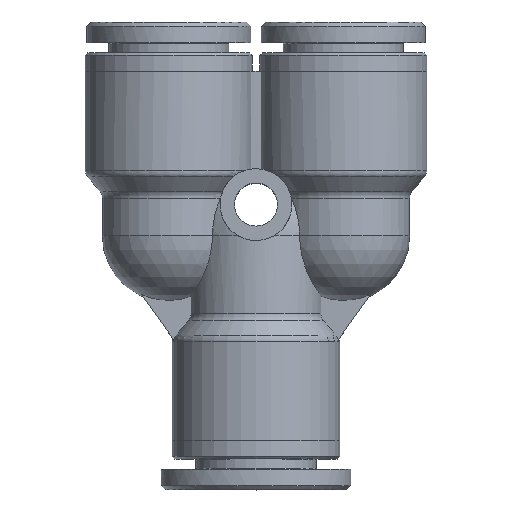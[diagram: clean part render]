
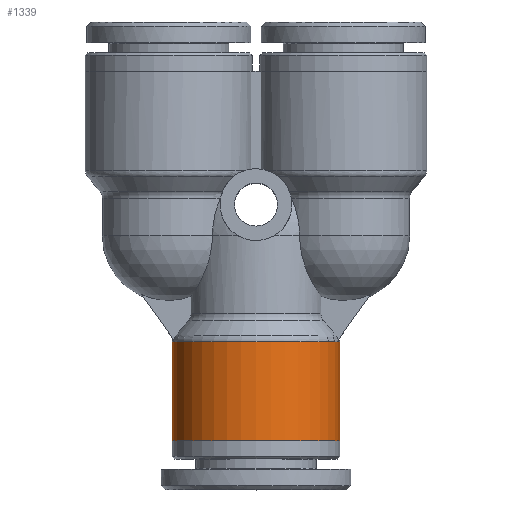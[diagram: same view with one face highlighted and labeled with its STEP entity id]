
A CAD part, top view. The second image highlights one B-rep face of the part: STEP entity #1339.
In plain terms, the highlighted cylindrical face has radius 8.15 mm (diameter 16.3 mm), a full revolution.
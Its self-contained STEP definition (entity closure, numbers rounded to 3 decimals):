
#1285=CARTESIAN_POINT('',(0.35,-20.0,0.0));
#1286=VERTEX_POINT('',#1285);
#1287=CARTESIAN_POINT('',(8.5,-20.,0.0));
#1288=DIRECTION('',(0.0,1.0,0.0));
#1289=DIRECTION('',(-1.0,0.0,0.0));
#1290=AXIS2_PLACEMENT_3D('',#1287,#1288,#1289);
#1291=CIRCLE('',#1290,8.15);
#1292=EDGE_CURVE('',#1286,#1286,#1291,.T.);
#1320=CARTESIAN_POINT('',(8.5,-15.0,0.0));
#1321=DIRECTION('',(0.,1.0,0.0));
#1322=DIRECTION('',(-1.0,0.0,0.0));
#1323=AXIS2_PLACEMENT_3D('',#1320,#1321,#1322);
#1324=CYLINDRICAL_SURFACE('',#1323,8.15);
#1325=CARTESIAN_POINT('',(0.35,-10.359,0.));
#1326=VERTEX_POINT('',#1325);
#1327=CARTESIAN_POINT('',(8.5,-10.359,0.0));
#1328=DIRECTION('',(0.0,1.0,0.0));
#1329=DIRECTION('',(1.0,0.0,0.0));
#1330=AXIS2_PLACEMENT_3D('',#1327,#1328,#1329);
#1331=CIRCLE('',#1330,8.15);
#1332=EDGE_CURVE('',#1326,#1326,#1331,.T.);
#1333=ORIENTED_EDGE('',*,*,#1332,.F.);
#1334=EDGE_LOOP('',(#1333));
#1335=FACE_OUTER_BOUND('',#1334,.T.);
#1336=ORIENTED_EDGE('',*,*,#1292,.T.);
#1337=EDGE_LOOP('',(#1336));
#1338=FACE_BOUND('',#1337,.T.);
#1339=ADVANCED_FACE('',(#1335,#1338),#1324,.T.);
